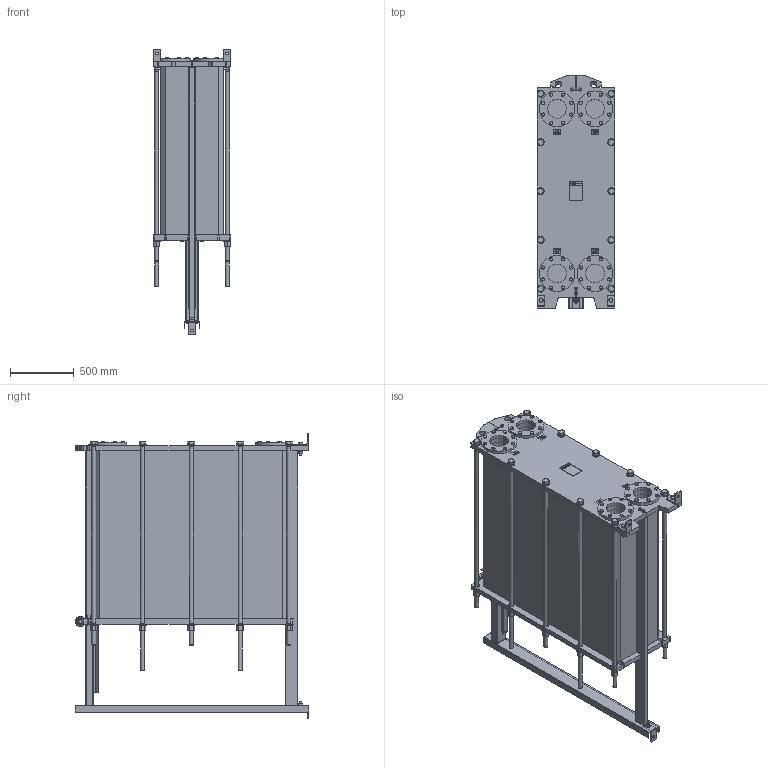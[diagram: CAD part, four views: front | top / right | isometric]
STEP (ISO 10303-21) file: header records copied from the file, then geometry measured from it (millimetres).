
FILE_DESCRIPTION (( 'STEP AP214' ), '1' );
FILE_NAME ('ÏÒ SX150 Óçêèé ðåä 9 íîâûé ðîëèê2+Alfa ñèãìà 201...240.STEP', '2021-04-18T11:12:03', ( '' ), ( '' ), 'SwSTEP 2.0', 'SolidWorks 2018', '' );
FILE_SCHEMA (( 'AUTOMOTIVE_DESIGN' ));
Length unit declared in the file: millimetre
Products named in the file (3): ÏÒ SX150 Óçêèé ðåä 9 íîâûé ðîëèê2+Alfa ñèãìà 201...240; ÏÒ SX150 Óçêèé ðåä 9 íîâûé ðîëèê2+Alfa ñèãìà2 201...240; ÏÒ SX150 Óçêèé ðåä 9 íîâûé ðîëèê2+Alfa ñèãìà1
Assembly tree (2 placements, depth 2):
  ÏÒ SX150 Óçêèé ðåä 9 íîâûé ðîëèê2+Alfa ñèãìà 201...240
    ÏÒ SX150 Óçêèé ðåä 9 íîâûé ðîëèê2+Alfa ñèãìà2 201...240
    ÏÒ SX150 Óçêèé ðåä 9 íîâûé ðîëèê2+Alfa ñèãìà1
Bounding box: 610.97 x 1834 x 2245 mm (x, y, z)
Volume: 1012450514.6 mm3; surface area: 18723921 mm2
Topology: 54 solids, 65 shells, 3227 faces, 7614 edges, 4821 vertices
Faces by surface type: plane 1543, cone 863, cylinder 497, bspline 275, torus 49
Full cylindrical faces by diameter (mm): 12 x24, 13 x16, 14 x8, 16 x32, 17 x32, 18 x32, 20 x9, 22 x9, 23 x5, 24 x16, 30 x20, 32 x20, 37 x5, 41 x20, 55 x20, 59.5 x1, 60.5 x1, 80 x1, 148 x12, 148.01 x4, 216 x4, 280 x4
Entity records: 132665 total; most frequent: CARTESIAN_POINT 29545, ORIENTED_EDGE 13728, DIRECTION 12884, EDGE_CURVE 6864, AXIS2_PLACEMENT_3D 4851, VERTEX_POINT 4660, EDGE_LOOP 4286, FACE_OUTER_BOUND 3571
